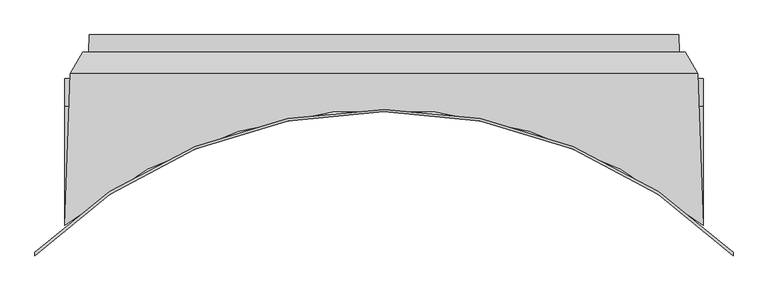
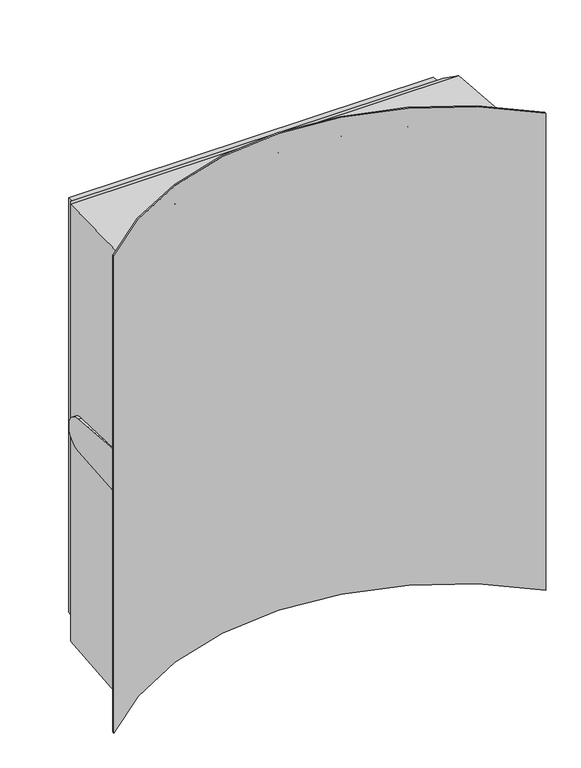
"""IFC4 building model written with IfcOpenShell, lengths in millimetres: proxy geometry, SU.1500x1800ManwayRiserAdaptor.2500."""

from ifc_helpers import new_model, si_unit, frame, origin, place, context, project, spatial, polyline, circle_curve, ellipse_curve, source, transform, mapped, element, save
from ifc_brep_helpers import plane_surface, cylinder_surface, revolved_surface, advanced_brep


def generic_models_291f0a55(model_context):
    return source(origin(), model_context, "Body", "AdvancedBrep", [
        advanced_brep(
        [(-741.5036573, 0.0, -891.5036573), (741.5036573, 0.0, -891.5036573), (743.0401711, -44.0, -893.0401711), (-743.0401711, -44.0, -893.0401711), (758.3020983, -44.0, 908.3020983), (758.3020983, -44.0, -908.3020983), (-758.3020983, -44.0, -908.3020983), (-758.3020983, -44.0, 908.3020983), (743.0401711, -44.0, 893.0401711), (-743.0401711, -44.0, 893.0401711), (-741.5036573, 0.0, 891.5036573), (741.5036573, 0.0, 891.5036573), (-803.25, -180.0, 70.0), (-803.25, -479.9060938, 93.971831), (-802.9675096, -479.669245, 93.9528994), (-792.5028289, -180.0, 70.0), (-792.5028289, -180.0, -70.0), (-803.25, -180.0, -70.0), (-803.25, -479.9060938, -93.971831), (-802.9675096, -479.669245, -93.9528994), (878.2496957, -548.176803, 1025.0), (878.2496957, -548.176803, -1025.0), (-878.2496957, -548.176803, -1025.0), (-878.2496957, -548.176803, 1025.0), (-802.9675096, -479.669245, -952.9675096), (802.9675096, -479.669245, -952.9675096), (802.9675096, -479.669245, -93.9528994), (803.25, -479.9060938, -93.971831), (803.25, -479.9060938, 93.971831), (802.9675096, -479.669245, 93.9528994), (802.9675096, -479.669245, 952.9675096), (-802.9675096, -479.669245, 952.9675096), (-789.6496465, -98.2955463, 939.6496465), (-789.6496465, -98.2955463, -939.6496465), (803.25, -180.0, 70.0), (792.5028289, -180.0, 70.0), (803.25, -180.0, -70.0), (792.5028289, -180.0, -70.0), (789.6496465, -98.2955463, -939.6496465), (789.6496465, -98.2955463, 939.6496465), (878.2496957, -556.6285986, -1025.0), (878.2496957, -556.6285986, 1025.0), (-878.2496957, -556.6285986, 1025.0), (-878.2496957, -556.6285986, -1025.0)],
        [
            (0, 1),
            (1, 2),
            (2, 3),
            (3, 0),
            (4, 5),
            (5, 6),
            (6, 7),
            (7, 4),
            (2, 8),
            (8, 9),
            (9, 3),
            (10, 0),
            (9, 10),
            (11, 10),
            (8, 11),
            (1, 11),
            (12, 13),
            (13, 14, ellipse_curve(frame((0.0, -1437.6583778, 170.5260471), z_axis=(0.0, -0.07967700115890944, -0.99682073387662), x_axis=(0.0, -0.99682073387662, 0.07967700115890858)), 1253.9867576, 1250.0)),
            (14, 15),
            (15, 12),
            (15, 16, ellipse_curve(frame((-792.5028289, -180.0, 0.0), z_axis=(-0.9993908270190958, 0.034899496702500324, 0.0), x_axis=(0.03489949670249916, 0.9993908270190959, 0.0)), 70.0426681, 70.0)),
            (16, 17),
            (17, 12, circle_curve(frame((-803.25, -180.0, 0.0), z_axis=(1.0, 0.0, 0.0), x_axis=(0.0, 0.0, -1.0)), 70.0)),
            (18, 17),
            (16, 19),
            (19, 18, ellipse_curve(frame((0.0, -1437.6583778, -170.5260471), z_axis=(0.0, -0.07967700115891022, 0.99682073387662), x_axis=(0.0, 0.9968207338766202, 0.0796770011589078)), 1253.9867576, 1250.0)),
            (20, 21),
            (21, 22, circle_curve(frame((0.0, -1437.6583778, -1025.0), z_axis=(0.0, 0.0, 1.0), x_axis=(0.7025997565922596, 0.7115852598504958, 0.0)), 1250.0)),
            (22, 23),
            (23, 20, circle_curve(frame((0.0, -1437.6583778, 1025.0), z_axis=(0.0, 0.0, -1.0), x_axis=(0.7025997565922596, 0.7115852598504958, 0.0)), 1250.0)),
            (13, 18),
            (19, 24),
            (24, 25, ellipse_curve(frame((0.0, -1437.6583778, -986.4212272), z_axis=(0.0, 0.03489949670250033, -0.9993908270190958), x_axis=(0.0, 0.9993908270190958, 0.034899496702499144)), 1250.7619304, 1250.0)),
            (25, 26),
            (26, 27, ellipse_curve(frame((0.0, -1437.6583778, -170.5260471), z_axis=(0.0, 0.07967700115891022, -0.99682073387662), x_axis=(0.0, 0.9968207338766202, 0.0796770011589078)), 1253.9867576, 1250.0)),
            (27, 28),
            (28, 29, ellipse_curve(frame((0.0, -1437.6583778, 170.5260471), z_axis=(0.0, 0.07967700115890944, 0.99682073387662), x_axis=(0.0, -0.99682073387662, 0.07967700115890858)), 1253.9867576, 1250.0)),
            (29, 30),
            (30, 31, ellipse_curve(frame((0.0, -1437.6583778, 986.4212272), z_axis=(0.0, 0.03489949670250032, 0.9993908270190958), x_axis=(0.0, -0.9993908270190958, 0.03489949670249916)), 1250.7619304, 1250.0)),
            (31, 14),
            (31, 32),
            (32, 33),
            (33, 24),
            (34, 35),
            (35, 29),
            (28, 34),
            (34, 36, circle_curve(frame((803.25, -180.0, 0.0), z_axis=(-1.0, 0.0, 0.0), x_axis=(0.0, 0.0, -1.0)), 70.0)),
            (36, 37),
            (37, 35, ellipse_curve(frame((792.5028289, -180.0, 0.0), z_axis=(0.9993908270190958, 0.03489949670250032, 0.0), x_axis=(0.03489949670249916, -0.9993908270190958, 0.0)), 70.0426681, 70.0)),
            (27, 36),
            (26, 37),
            (25, 38),
            (38, 39),
            (39, 30),
            (33, 38),
            (38, 5),
            (4, 39),
            (33, 6),
            (32, 7),
            (39, 32),
            (40, 41),
            (41, 42, circle_curve(frame((0.0, -1437.6583778, 1025.0), z_axis=(0.0, 0.0, 1.0), x_axis=(-0.7059885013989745, -0.7082232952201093, 0.0)), 1244.0)),
            (42, 43),
            (43, 40, circle_curve(frame((0.0, -1437.6583778, -1025.0), z_axis=(0.0, 0.0, -1.0), x_axis=(-0.7059885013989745, -0.7082232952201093, 0.0)), 1244.0)),
            (40, 21),
            (20, 41),
            (42, 23),
            (22, 43),
        ],
        [
            plane_surface(frame((700.0, 0.0, -891.5036573), z_axis=(0.0, 0.03489949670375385, -0.999390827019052), x_axis=(0.0, -0.999390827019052, -0.03489949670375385))),
            plane_surface(frame((700.0, -44.0, -893.0401711), z_axis=(0.0, 1.0, 0.0), x_axis=(0.0, 0.0, -1.0))),
            plane_surface(frame((-741.5036573, 0.0, -850.0), z_axis=(-0.999390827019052, 0.034899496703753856, 0.0), x_axis=(-0.034899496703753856, -0.999390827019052, 0.0))),
            plane_surface(frame((-700.0, 0.0, 891.5036573), z_axis=(0.0, 0.034899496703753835, 0.999390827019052), x_axis=(0.0, -0.999390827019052, 0.034899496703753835))),
            plane_surface(frame((741.5036573, 0.0, 850.0), z_axis=(0.999390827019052, 0.03489949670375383, 0.0), x_axis=(0.03489949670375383, -0.999390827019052, 0.0))),
            plane_surface(frame((0.0, -180.0, 70.0), z_axis=(0.0, 0.07967700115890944, 0.99682073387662), x_axis=(0.0, -0.99682073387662, 0.07967700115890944))),
            cylinder_surface(frame((0.0, -180.0, 0.0), z_axis=(1.0, 0.0, 0.0), x_axis=(0.0, 0.0, -1.0)), 70.0),
            plane_surface(frame((0.0, -487.75, -94.5988032), z_axis=(0.0, 0.07967700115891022, -0.99682073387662), x_axis=(0.0, 0.99682073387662, 0.07967700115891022))),
            cylinder_surface(frame((0.0, -1437.6583778, 0.0), z_axis=(0.0, 0.0, 1.0), x_axis=(0.7025997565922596, 0.7115852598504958, 0.0)), 1250.0),
            plane_surface(frame((-789.6496465, -98.2955463, -850.0), z_axis=(-0.9993908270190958, 0.034899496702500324, 0.0), x_axis=(-0.034899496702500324, -0.9993908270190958, 0.0))),
            plane_surface(frame((803.25, -298.875, 0.0), z_axis=(1.0, 0.0, 0.0), x_axis=(0.0, 0.0, -1.0))),
            plane_surface(frame((789.6496465, -98.2955463, 850.0), z_axis=(0.9993908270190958, 0.03489949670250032, 0.0), x_axis=(0.03489949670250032, -0.9993908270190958, 0.0))),
            plane_surface(frame((700.0, -98.2955463, -939.6496465), z_axis=(0.0, 0.03489949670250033, -0.9993908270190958), x_axis=(0.0, -0.9993908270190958, -0.03489949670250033))),
            plane_surface(frame((758.3020983, -44.0, 850.0), z_axis=(0.8660254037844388, 0.49999999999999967, 0.0), x_axis=(0.49999999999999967, -0.8660254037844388, 0.0))),
            plane_surface(frame((700.0, -44.0, -908.3020983), z_axis=(0.0, 0.4999999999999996, -0.8660254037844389), x_axis=(0.0, -0.8660254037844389, -0.4999999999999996))),
            plane_surface(frame((-758.3020983, -44.0, -850.0), z_axis=(-0.8660254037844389, 0.4999999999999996, 0.0), x_axis=(-0.4999999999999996, -0.8660254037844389, 0.0))),
            plane_surface(frame((-700.0, -98.2955463, 939.6496465), z_axis=(0.0, 0.03489949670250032, 0.9993908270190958), x_axis=(0.0, -0.9993908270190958, 0.03489949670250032))),
            plane_surface(frame((-700.0, -44.0, 908.3020983), z_axis=(0.0, 0.4999999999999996, 0.8660254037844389), x_axis=(0.0, -0.8660254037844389, 0.4999999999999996))),
            revolved_surface(polyline([(-878.2496957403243, -2318.6881570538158, 1024.9999999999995), (-878.2496957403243, -2318.6881570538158, -1024.9999999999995)]), (0.0, -1437.6583778, 0.0), (0.0, 0.0, 0.9999999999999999)),
            plane_surface(frame((878.2496957, -556.6285986, 0.0), z_axis=(1.0, 0.0, 0.0), x_axis=(0.0, 1.0, 0.0))),
            plane_surface(frame((-878.2496957, -548.176803, 0.0), z_axis=(-1.0, 0.0, 0.0), x_axis=(0.0, -1.0, 0.0))),
            plane_surface(frame((0.0, -372.1434882, 1025.0), z_axis=(0.0, 0.0, 1.0), x_axis=(1.0, 0.0, 0.0))),
            plane_surface(frame((-803.25, -298.875, 0.0), z_axis=(-1.0, 0.0, 0.0), x_axis=(0.0, 0.0, -1.0))),
            plane_surface(frame((0.0, -372.1434882, -1025.0), z_axis=(0.0, 0.0, -1.0), x_axis=(1.0, 0.0, 0.0))),
            plane_surface(frame((700.0, 0.0, -885.5), z_axis=(0.0, 1.0, 0.0), x_axis=(0.0, 0.0, -1.0))),
        ],
        [
            (0, [[1, 2, 3, 4]]),
            (1, [[5, 6, 7, 8], [9, 10, 11, -3]]),
            (2, [[12, -4, -11, 13]]),
            (3, [[14, -13, -10, 15]]),
            (4, [[16, -15, -9, -2]]),
            (5, [[17, 18, 19, 20]]),
            (6, [[-20, 21, 22, 23]]),
            (7, [[24, -22, 25, 26]]),
            (8, [[27, 28, 29, 30], [-18, 31, -26, 32, 33, 34, 35, 36, 37, 38, 39, 40]]),
            (9, [[-40, 41, 42, 43, -32, -25, -21, -19]]),
            (5, [[44, 45, -37, 46]]),
            (6, [[-44, 47, 48, 49]]),
            (10, [[-47, -46, -36, 50]]),
            (7, [[-48, -50, -35, 51]]),
            (11, [[-45, -49, -51, -34, 52, 53, 54, -38]]),
            (12, [[-52, -33, -43, 55]]),
            (13, [[-53, 56, -5, 57]]),
            (14, [[-55, 58, -6, -56]]),
            (15, [[-42, 59, -7, -58]]),
            (16, [[-41, -39, -54, 60]]),
            (17, [[-60, -57, -8, -59]]),
            (18, [[61, 62, 63, 64]]),
            (19, [[-61, 65, -27, 66]]),
            (20, [[-63, 67, -29, 68]]),
            (21, [[-66, -30, -67, -62]]),
            (22, [[-17, -23, -24, -31]]),
            (23, [[-64, -68, -28, -65]]),
            (24, [[-1, -12, -14, -16]]),
        ],
    ),
    ])


if __name__ == "__main__":
    model = new_model("IFC4")
    model_context = context("Model", 3, world=origin())
    ifc_project = project(units=[si_unit("LENGTHUNIT", "METRE", prefix="MILLI")], contexts=[model_context])
    site = spatial("IfcSite", under=ifc_project)
    building = spatial("IfcBuilding", under=site)
    placement = place(None, origin())
    generic_models_shape = generic_models_291f0a55(model_context)
    element("IfcBuildingElementProxy", 1, Name="SU.1500x1800ManwayRiserAdaptor.2500", ObjectType="SU.1500x1800ManwayRiserAdaptor.2500", at=placement, inside=building, context=model_context, shape_type="MappedRepresentation", body=[
        mapped(generic_models_shape, transform((0.0, 0.0, 0.0), x_axis=(1.0, 0.0, 0.0), y_axis=(0.0, 1.0, 0.0), z_axis=(0.0, 0.0, 1.0))),
    ])
    save(model, "model.ifc")
